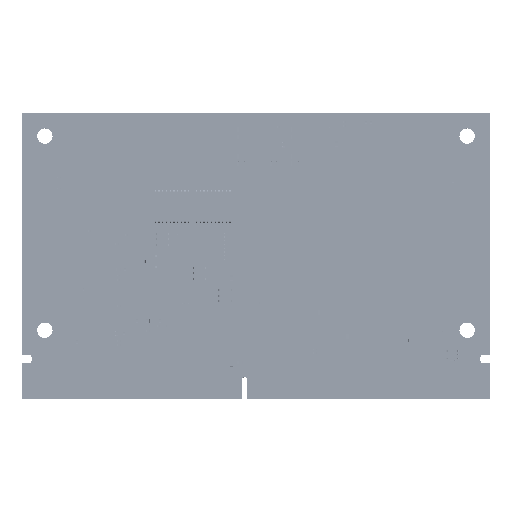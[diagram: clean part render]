
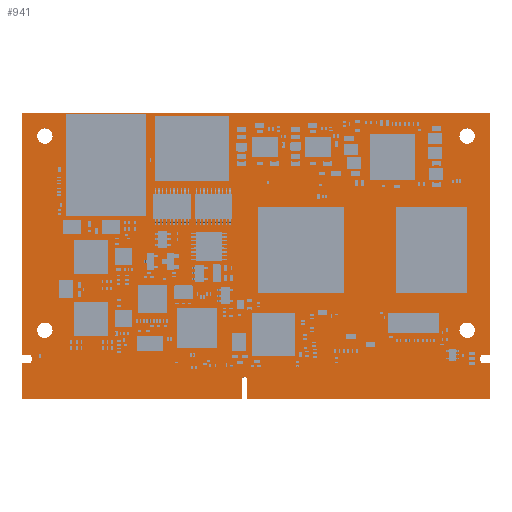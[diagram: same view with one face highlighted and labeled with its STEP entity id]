
A CAD part, top view. The second image highlights one B-rep face of the part: STEP entity #941.
In plain terms, the highlighted planar face has unit normal (0, 0, 1).
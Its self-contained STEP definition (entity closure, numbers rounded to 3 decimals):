
#254=CARTESIAN_POINT('',(4.,46.,1.2));
#255=DIRECTION('',(0.,0.,1.));
#256=DIRECTION('',(1.,0.,0.));
#257=AXIS2_PLACEMENT_3D('',#254,#255,#256);
#262=CARTESIAN_POINT('',(4.,46.,1.2));
#263=DIRECTION('',(0.,0.,1.));
#264=DIRECTION('',(-1.,0.,0.));
#265=AXIS2_PLACEMENT_3D('',#262,#263,#264);
#270=CARTESIAN_POINT('',(4.,12.,1.2));
#271=DIRECTION('',(0.,0.,1.));
#272=DIRECTION('',(1.,0.,0.));
#273=AXIS2_PLACEMENT_3D('',#270,#271,#272);
#278=CARTESIAN_POINT('',(4.,12.,1.2));
#279=DIRECTION('',(0.,0.,1.));
#280=DIRECTION('',(-1.,0.,0.));
#281=AXIS2_PLACEMENT_3D('',#278,#279,#280);
#286=CARTESIAN_POINT('',(78.,12.,1.2));
#287=DIRECTION('',(0.,0.,1.));
#288=DIRECTION('',(1.,0.,0.));
#289=AXIS2_PLACEMENT_3D('',#286,#287,#288);
#294=CARTESIAN_POINT('',(78.,12.,1.2));
#295=DIRECTION('',(0.,0.,1.));
#296=DIRECTION('',(-1.,0.,0.));
#297=AXIS2_PLACEMENT_3D('',#294,#295,#296);
#302=CARTESIAN_POINT('',(78.,46.,1.2));
#303=DIRECTION('',(0.,0.,1.));
#304=DIRECTION('',(1.,0.,0.));
#305=AXIS2_PLACEMENT_3D('',#302,#303,#304);
#310=CARTESIAN_POINT('',(78.,46.,1.2));
#311=DIRECTION('',(0.,0.,1.));
#312=DIRECTION('',(-1.,0.,0.));
#313=AXIS2_PLACEMENT_3D('',#310,#311,#312);
#318=DIRECTION('',(-1.,0.,0.));
#319=VECTOR('',#318,82.);
#320=CARTESIAN_POINT('',(82.,50.,1.2));
#321=LINE('',#320,#319);
#325=DIRECTION('',(0.,1.,0.));
#326=VECTOR('',#325,42.3);
#327=CARTESIAN_POINT('',(82.,7.7,1.2));
#328=LINE('',#327,#326);
#332=DIRECTION('',(1.,0.,0.));
#333=VECTOR('',#332,1.2);
#334=CARTESIAN_POINT('',(80.8,7.7,1.2));
#335=LINE('',#334,#333);
#339=CARTESIAN_POINT('',(80.8,7.2,1.2));
#340=DIRECTION('',(0.,0.,-1.));
#341=DIRECTION('',(-1.,0.,0.));
#342=AXIS2_PLACEMENT_3D('',#339,#340,#341);
#347=DIRECTION('',(0.,1.,0.));
#348=VECTOR('',#347,0.5);
#349=CARTESIAN_POINT('',(80.3,6.7,1.2));
#350=LINE('',#349,#348);
#354=CARTESIAN_POINT('',(80.8,6.7,1.2));
#355=DIRECTION('',(0.,0.,-1.));
#356=DIRECTION('',(0.,-1.,0.));
#357=AXIS2_PLACEMENT_3D('',#354,#355,#356);
#362=DIRECTION('',(-1.,0.,0.));
#363=VECTOR('',#362,1.2);
#364=CARTESIAN_POINT('',(82.,6.2,1.2));
#365=LINE('',#364,#363);
#369=DIRECTION('',(0.,1.,0.));
#370=VECTOR('',#369,6.2);
#371=CARTESIAN_POINT('',(82.,0.,1.2));
#372=LINE('',#371,#370);
#376=DIRECTION('',(1.,0.,0.));
#377=VECTOR('',#376,42.5);
#378=CARTESIAN_POINT('',(39.5,0.,1.2));
#379=LINE('',#378,#377);
#383=DIRECTION('',(0.,1.,0.));
#384=VECTOR('',#383,3.25);
#385=CARTESIAN_POINT('',(39.5,0.,1.2));
#386=LINE('',#385,#384);
#390=DIRECTION('',(1.,0.,0.));
#391=VECTOR('',#390,38.5);
#392=CARTESIAN_POINT('',(0.,0.,1.2));
#393=LINE('',#392,#391);
#397=DIRECTION('',(0.,1.,0.));
#398=VECTOR('',#397,6.2);
#399=CARTESIAN_POINT('',(0.,0.,1.2));
#400=LINE('',#399,#398);
#404=DIRECTION('',(-1.,0.,0.));
#405=VECTOR('',#404,1.2);
#406=CARTESIAN_POINT('',(1.2,6.2,1.2));
#407=LINE('',#406,#405);
#411=CARTESIAN_POINT('',(1.2,6.7,1.2));
#412=DIRECTION('',(0.,0.,-1.));
#413=DIRECTION('',(1.,0.,0.));
#414=AXIS2_PLACEMENT_3D('',#411,#412,#413);
#419=DIRECTION('',(0.,-1.,0.));
#420=VECTOR('',#419,0.5);
#421=CARTESIAN_POINT('',(1.7,7.2,1.2));
#422=LINE('',#421,#420);
#426=CARTESIAN_POINT('',(1.2,7.2,1.2));
#427=DIRECTION('',(0.,0.,-1.));
#428=DIRECTION('',(0.,1.,0.));
#429=AXIS2_PLACEMENT_3D('',#426,#427,#428);
#434=DIRECTION('',(1.,0.,0.));
#435=VECTOR('',#434,1.2);
#436=CARTESIAN_POINT('',(0.,7.7,1.2));
#437=LINE('',#436,#435);
#441=DIRECTION('',(0.,-1.,0.));
#442=VECTOR('',#441,42.3);
#443=CARTESIAN_POINT('',(0.,50.,1.2));
#444=LINE('',#443,#442);
#560=CARTESIAN_POINT('',(39.,3.25,1.2));
#561=DIRECTION('',(0.,0.,-1.));
#562=DIRECTION('',(-1.,0.,0.));
#563=AXIS2_PLACEMENT_3D('',#560,#561,#562);
#583=DIRECTION('',(0.,1.,0.));
#584=VECTOR('',#583,3.25);
#585=CARTESIAN_POINT('',(38.5,0.,1.2));
#586=LINE('',#585,#584);
#661=CARTESIAN_POINT('',(38.5,0.,1.2));
#663=VERTEX_POINT('',#661);
#668=CARTESIAN_POINT('',(5.35,46.,1.2));
#669=CARTESIAN_POINT('',(2.65,46.,1.2));
#670=VERTEX_POINT('',#668);
#671=VERTEX_POINT('',#669);
#676=CARTESIAN_POINT('',(5.35,12.,1.2));
#677=CARTESIAN_POINT('',(2.65,12.,1.2));
#678=VERTEX_POINT('',#676);
#679=VERTEX_POINT('',#677);
#684=CARTESIAN_POINT('',(79.35,12.,1.2));
#685=CARTESIAN_POINT('',(76.65,12.,1.2));
#686=VERTEX_POINT('',#684);
#687=VERTEX_POINT('',#685);
#692=CARTESIAN_POINT('',(79.35,46.,1.2));
#693=CARTESIAN_POINT('',(76.65,46.,1.2));
#694=VERTEX_POINT('',#692);
#695=VERTEX_POINT('',#693);
#732=CARTESIAN_POINT('',(82.,50.,1.2));
#733=CARTESIAN_POINT('',(0.,50.,1.2));
#734=VERTEX_POINT('',#732);
#735=VERTEX_POINT('',#733);
#736=CARTESIAN_POINT('',(0.,7.7,1.2));
#737=VERTEX_POINT('',#736);
#738=CARTESIAN_POINT('',(1.2,7.7,1.2));
#739=VERTEX_POINT('',#738);
#740=CARTESIAN_POINT('',(1.7,7.2,1.2));
#741=VERTEX_POINT('',#740);
#742=CARTESIAN_POINT('',(1.7,6.7,1.2));
#743=VERTEX_POINT('',#742);
#744=CARTESIAN_POINT('',(1.2,6.2,1.2));
#745=VERTEX_POINT('',#744);
#746=CARTESIAN_POINT('',(0.,6.2,1.2));
#747=VERTEX_POINT('',#746);
#748=CARTESIAN_POINT('',(0.,0.,1.2));
#749=VERTEX_POINT('',#748);
#750=CARTESIAN_POINT('',(39.5,0.,1.2));
#751=CARTESIAN_POINT('',(39.5,3.25,1.2));
#752=VERTEX_POINT('',#750);
#753=VERTEX_POINT('',#751);
#754=CARTESIAN_POINT('',(82.,0.,1.2));
#755=CARTESIAN_POINT('',(82.,6.2,1.2));
#756=VERTEX_POINT('',#754);
#757=VERTEX_POINT('',#755);
#758=CARTESIAN_POINT('',(80.8,6.2,1.2));
#759=VERTEX_POINT('',#758);
#760=CARTESIAN_POINT('',(80.3,6.7,1.2));
#761=VERTEX_POINT('',#760);
#762=CARTESIAN_POINT('',(80.3,7.2,1.2));
#763=VERTEX_POINT('',#762);
#764=CARTESIAN_POINT('',(80.8,7.7,1.2));
#765=VERTEX_POINT('',#764);
#766=CARTESIAN_POINT('',(82.,7.7,1.2));
#767=VERTEX_POINT('',#766);
#769=CARTESIAN_POINT('',(38.5,3.25,1.2));
#771=VERTEX_POINT('',#769);
#872=CARTESIAN_POINT('',(0.,0.,1.2));
#873=DIRECTION('',(0.,0.,1.));
#874=DIRECTION('',(1.,0.,0.));
#875=AXIS2_PLACEMENT_3D('',#872,#873,#874);
#876=PLANE('',#875);
#878=ORIENTED_EDGE('',*,*,#877,.F.);
#880=ORIENTED_EDGE('',*,*,#879,.F.);
#882=ORIENTED_EDGE('',*,*,#881,.F.);
#884=ORIENTED_EDGE('',*,*,#883,.F.);
#886=ORIENTED_EDGE('',*,*,#885,.F.);
#888=ORIENTED_EDGE('',*,*,#887,.F.);
#890=ORIENTED_EDGE('',*,*,#889,.F.);
#892=ORIENTED_EDGE('',*,*,#891,.F.);
#894=ORIENTED_EDGE('',*,*,#893,.F.);
#896=ORIENTED_EDGE('',*,*,#895,.T.);
#898=ORIENTED_EDGE('',*,*,#897,.F.);
#900=ORIENTED_EDGE('',*,*,#899,.F.);
#902=ORIENTED_EDGE('',*,*,#901,.F.);
#904=ORIENTED_EDGE('',*,*,#903,.T.);
#906=ORIENTED_EDGE('',*,*,#905,.F.);
#908=ORIENTED_EDGE('',*,*,#907,.F.);
#910=ORIENTED_EDGE('',*,*,#909,.F.);
#912=ORIENTED_EDGE('',*,*,#911,.F.);
#914=ORIENTED_EDGE('',*,*,#913,.F.);
#916=ORIENTED_EDGE('',*,*,#915,.F.);
#917=EDGE_LOOP('',(#878,#880,#882,#884,#886,#888,#890,#892,#894,#896,#898,#900,
#902,#904,#906,#908,#910,#912,#914,#916));
#918=FACE_OUTER_BOUND('',#917,.F.);
#920=ORIENTED_EDGE('',*,*,#919,.T.);
#922=ORIENTED_EDGE('',*,*,#921,.T.);
#923=EDGE_LOOP('',(#920,#922));
#924=FACE_BOUND('',#923,.F.);
#926=ORIENTED_EDGE('',*,*,#925,.T.);
#928=ORIENTED_EDGE('',*,*,#927,.T.);
#929=EDGE_LOOP('',(#926,#928));
#930=FACE_BOUND('',#929,.F.);
#932=ORIENTED_EDGE('',*,*,#931,.T.);
#934=ORIENTED_EDGE('',*,*,#933,.T.);
#935=EDGE_LOOP('',(#932,#934));
#936=FACE_BOUND('',#935,.F.);
#937=ORIENTED_EDGE('',*,*,#852,.T.);
#938=ORIENTED_EDGE('',*,*,#866,.T.);
#939=EDGE_LOOP('',(#937,#938));
#940=FACE_BOUND('',#939,.F.);
#258=CIRCLE('',#257,1.35);
#266=CIRCLE('',#265,1.35);
#274=CIRCLE('',#273,1.35);
#282=CIRCLE('',#281,1.35);
#290=CIRCLE('',#289,1.35);
#298=CIRCLE('',#297,1.35);
#306=CIRCLE('',#305,1.35);
#314=CIRCLE('',#313,1.35);
#343=CIRCLE('',#342,0.5);
#358=CIRCLE('',#357,0.5);
#415=CIRCLE('',#414,0.5);
#430=CIRCLE('',#429,0.5);
#564=CIRCLE('',#563,0.5);
#852=EDGE_CURVE('',#670,#671,#258,.T.);
#866=EDGE_CURVE('',#671,#670,#266,.T.);
#877=EDGE_CURVE('',#734,#735,#321,.T.);
#879=EDGE_CURVE('',#767,#734,#328,.T.);
#881=EDGE_CURVE('',#765,#767,#335,.T.);
#883=EDGE_CURVE('',#763,#765,#343,.T.);
#885=EDGE_CURVE('',#761,#763,#350,.T.);
#887=EDGE_CURVE('',#759,#761,#358,.T.);
#889=EDGE_CURVE('',#757,#759,#365,.T.);
#891=EDGE_CURVE('',#756,#757,#372,.T.);
#893=EDGE_CURVE('',#752,#756,#379,.T.);
#895=EDGE_CURVE('',#752,#753,#386,.T.);
#897=EDGE_CURVE('',#771,#753,#564,.T.);
#899=EDGE_CURVE('',#663,#771,#586,.T.);
#901=EDGE_CURVE('',#749,#663,#393,.T.);
#903=EDGE_CURVE('',#749,#747,#400,.T.);
#905=EDGE_CURVE('',#745,#747,#407,.T.);
#907=EDGE_CURVE('',#743,#745,#415,.T.);
#909=EDGE_CURVE('',#741,#743,#422,.T.);
#911=EDGE_CURVE('',#739,#741,#430,.T.);
#913=EDGE_CURVE('',#737,#739,#437,.T.);
#915=EDGE_CURVE('',#735,#737,#444,.T.);
#919=EDGE_CURVE('',#678,#679,#274,.T.);
#921=EDGE_CURVE('',#679,#678,#282,.T.);
#925=EDGE_CURVE('',#686,#687,#290,.T.);
#927=EDGE_CURVE('',#687,#686,#298,.T.);
#931=EDGE_CURVE('',#694,#695,#306,.T.);
#933=EDGE_CURVE('',#695,#694,#314,.T.);
#941=ADVANCED_FACE('',(#918,#924,#930,#936,#940),#876,.T.);
